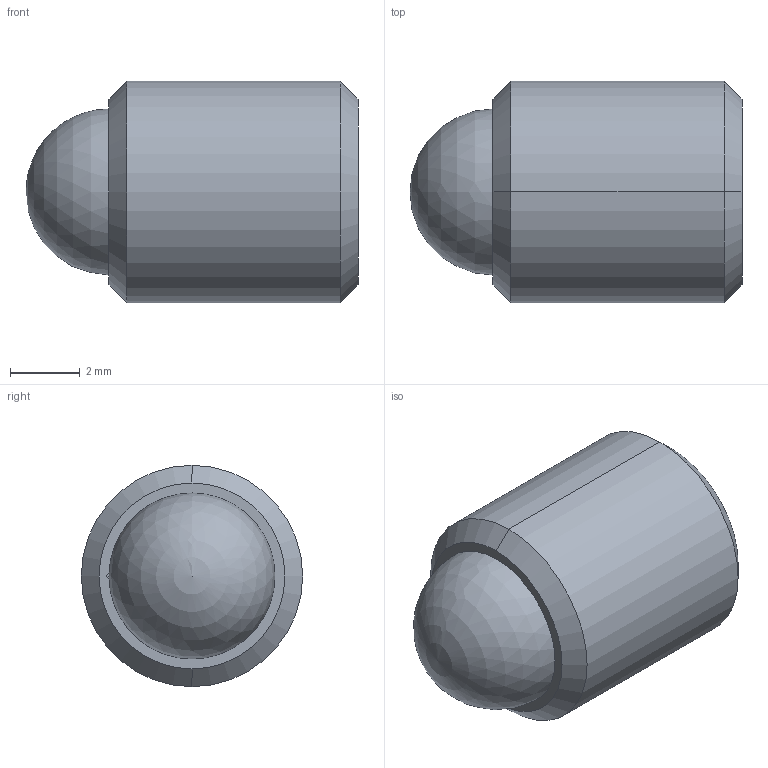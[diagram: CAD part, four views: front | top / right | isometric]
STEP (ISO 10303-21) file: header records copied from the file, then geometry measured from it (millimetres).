
FILE_DESCRIPTION (( 'STEP AP214' ), '1' );
FILE_NAME ('TS250-80-375-AA-HV.STEP', '2013-05-10T14:37:15', ( 'workpc' ), ( 'Microsoft' ), 'SwSTEP 2.0', 'SolidWorks 2013', '' );
FILE_SCHEMA (( 'AUTOMOTIVE_DESIGN' ));
Length unit declared in the file: inch
Products named in the file (1): TS250-80-375-AA-HV
Bounding box: 9.53 x 6.35 x 6.35 mm (x, y, z)
Volume: 227.7 mm3; surface area: 316.1 mm2
Topology: 2 solids, 2 shells, 24 faces, 57 edges, 37 vertices
Faces by surface type: plane 10, cylinder 8, cone 4, sphere 2
Entity records: 739 total; most frequent: DIRECTION 124, CARTESIAN_POINT 111, ORIENTED_EDGE 104, EDGE_CURVE 52, AXIS2_PLACEMENT_3D 47, VERTEX_POINT 34, LINE 30, VECTOR 30
